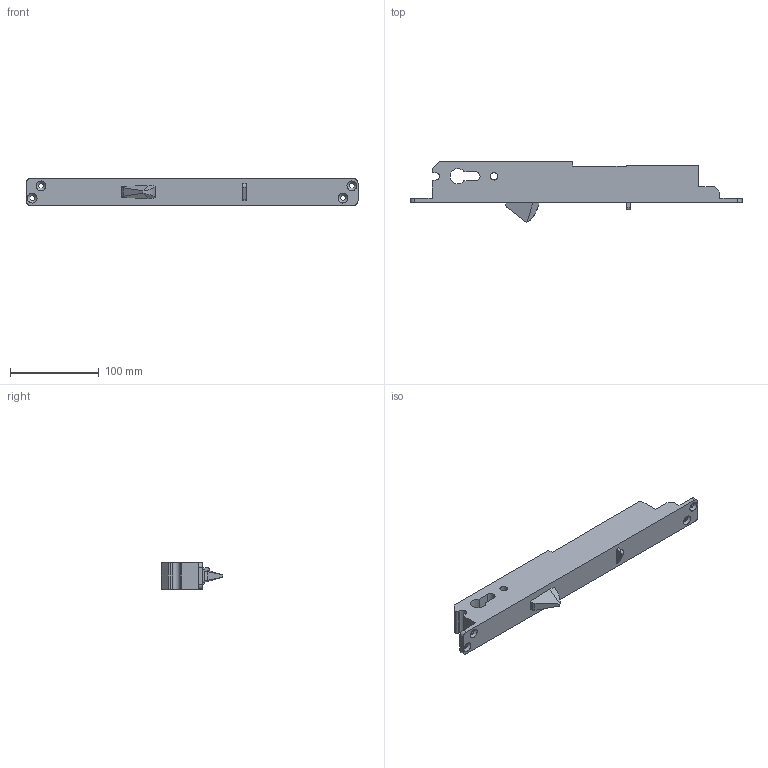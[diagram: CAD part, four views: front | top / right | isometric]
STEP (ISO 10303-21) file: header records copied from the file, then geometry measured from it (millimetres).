
FILE_DESCRIPTION(/* description */ (''),/* implementation_level */ '2;1');
FILE_NAME(/* name */ 'C:\DESIGNCENTER\B&B LOCKS\PRODUCTS\3D-SYMBOLS\A1 LOCKS\B&B LOCKS A1M-3017 SE - DinR.stp',/* time_stamp */ '2023-03-22T10:59:03+01:00',/* author */ ('steve'),/* organization */ (''),/* preprocessor_version */ 'ST-DEVELOPER v18',/* originating_system */ 'Autodesk Inventor 2020',/* authorisation */ '');
FILE_SCHEMA (('AUTOMOTIVE_DESIGN { 1 0 10303 214 3 1 1 }'));
Length unit declared in the file: millimetre
Products named in the file (1): BASISSYMBOOL A1-SX,SA,SE
Bounding box: 375 x 69.5 x 30 mm (x, y, z)
Volume: 403463.2 mm3; surface area: 57956.5 mm2
Topology: 1 solids, 1 shells, 68 faces, 194 edges, 130 vertices
Faces by surface type: plane 43, cylinder 21, cone 4
Full cylindrical faces by diameter (mm): 5.5 x4, 8.5 x1
Entity records: 2293 total; most frequent: CARTESIAN_POINT 393, ORIENTED_EDGE 388, DIRECTION 386, EDGE_CURVE 194, LINE 140, VECTOR 140, VERTEX_POINT 130, AXIS2_PLACEMENT_3D 123
